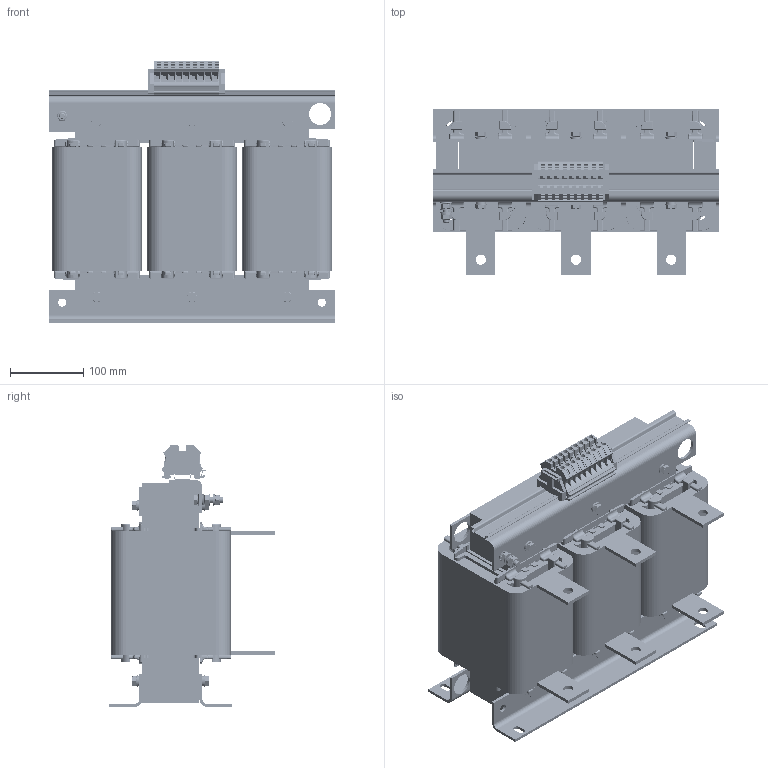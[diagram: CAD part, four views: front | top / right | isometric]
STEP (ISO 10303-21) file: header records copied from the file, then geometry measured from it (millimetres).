
FILE_DESCRIPTION((''),'2;1');
FILE_NAME('C:\Users\fp1\CAD-Daten\DT\DT10,0 230 18 24.stp','2014-07-01T09:50:45',('FP1'),(''),'Autodesk Inventor 2013','Autodesk Inventor 2013','');
FILE_SCHEMA(('AUTOMOTIVE_DESIGN { 1 0 10303 214 1 1 1 1 }'));
Length unit declared in the file: millimetre
Products named in the file (1): Bauteil90
Bounding box: 390 x 225.55 x 357 mm (x, y, z)
Volume: 12864951.7 mm3; surface area: 1539853 mm2
Topology: 4 solids, 4 shells, 9300 faces, 26290 edges, 16946 vertices
Faces by surface type: plane 7068, cylinder 1629, bspline 188, torus 170, sphere 168, cone 77
Full cylindrical faces by diameter (mm): 2.95 x72, 6.32 x18, 8 x3, 8.3 x2, 8.4 x2, 11 x3, 11.63 x7, 14 x18, 16 x14, 30 x4
Entity records: 300569 total; most frequent: CARTESIAN_POINT 62755, ORIENTED_EDGE 51546, DIRECTION 45984, EDGE_CURVE 25773, VECTOR 19500, LINE 19500, VERTEX_POINT 16763, AXIS2_PLACEMENT_3D 13242
